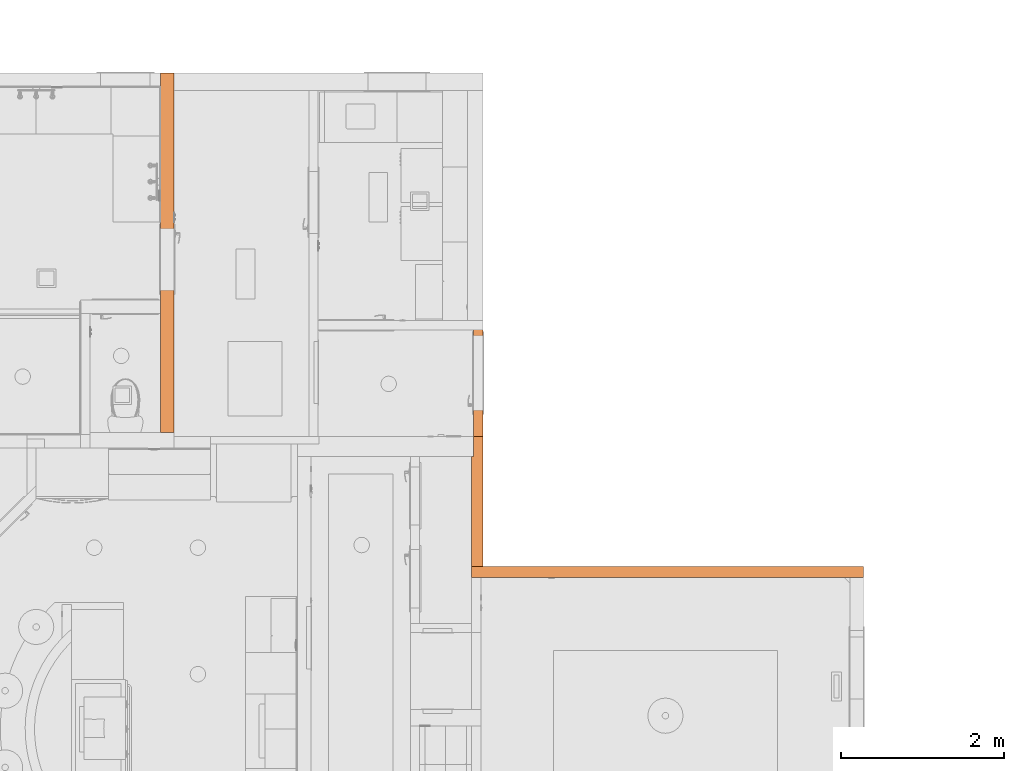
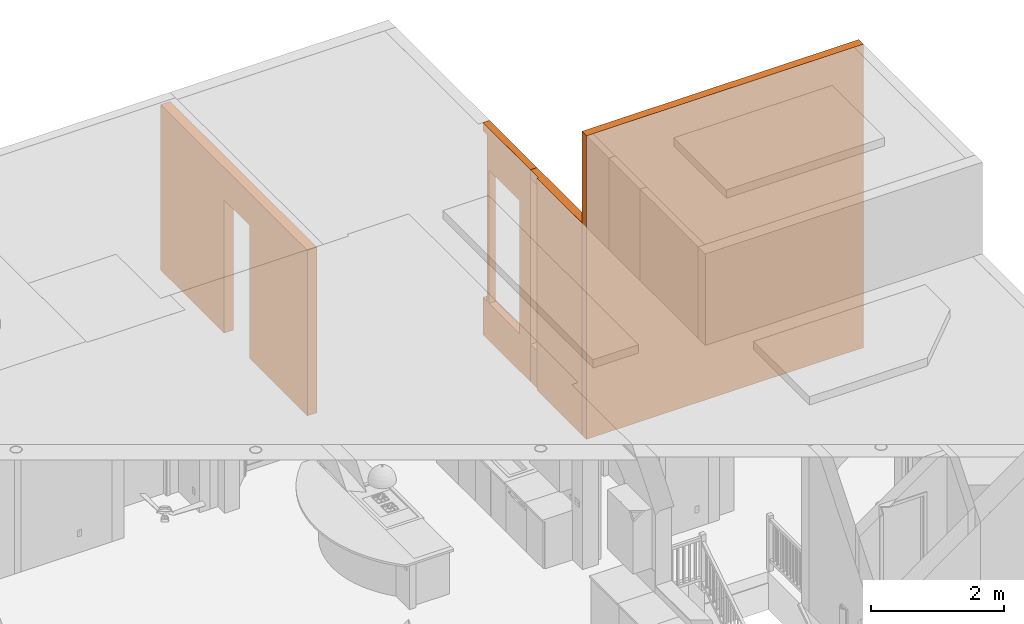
# One storey, part 95 of 103: 4 proxies.
"""IFC2X3 building model written with IfcOpenShell, lengths in inches."""

from ifc_helpers import new_model, entity, si_unit, converted_unit, derived_unit, money_unit, direction, frame, origin_with_axes, place, context, subcontext, project, spatial, faceted_brep, material, type_object, element, save


model = new_model("IFC2X3")

# Units and contexts
model_context = context("Model", 3, precision=0.00039370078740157, world=origin_with_axes(), true_north=direction((0.0, 1.0)))
plan_context = context("Plan", 3, precision=0.00039370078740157, world=origin_with_axes(), true_north=direction((0.0, 1.0)))
body_context = subcontext(model_context, "Body", "Model", "MODEL_VIEW")
ifc_project = project(units=[converted_unit("LENGTHUNIT", "INCH", entity("IfcPositiveLengthMeasure", 0.0254), si_unit("LENGTHUNIT", "METRE"), dimensions=[1, 0, 0, 0, 0, 0, 0]), converted_unit("AREAUNIT", "SQUARE_FOOT", entity("IfcPositiveLengthMeasure", 0.09290304), si_unit("AREAUNIT", "SQUARE_METRE"), dimensions=[2, 0, 0, 0, 0, 0, 0]), si_unit("PLANEANGLEUNIT", "RADIAN"), si_unit("SOLIDANGLEUNIT", "STERADIAN"), money_unit("USD"), converted_unit("TIMEUNIT", "Year", entity("IfcTimeMeasure", 31557600.0), si_unit("TIMEUNIT", "SECOND"), dimensions=[0, 0, 1, 0, 0, 0, 0]), si_unit("MASSUNIT", "GRAM", prefix="KILO"), si_unit("THERMODYNAMICTEMPERATUREUNIT", "DEGREE_CELSIUS"), si_unit("LUMINOUSINTENSITYUNIT", "LUMEN"), si_unit("ENERGYUNIT", "JOULE", prefix="MEGA"), derived_unit("SPECIFICHEATCAPACITYUNIT", [(si_unit("ENERGYUNIT", "JOULE"), 1), (si_unit("MASSUNIT", "GRAM", prefix="KILO"), -1), (si_unit("THERMODYNAMICTEMPERATUREUNIT", "KELVIN"), -1)])], contexts=[model_context, plan_context])

# Site, building, storey
site_placement = place(None, origin_with_axes())
site = spatial("IfcSite", under=ifc_project, at=site_placement, Name="Site", CompositionType="ELEMENT")
building_placement = place(site_placement, origin_with_axes())
building = spatial("IfcBuilding", under=site, at=building_placement, Name="Building", CompositionType="ELEMENT")
storey_placement = place(building_placement, frame((0.0, 0.0, 127.9999999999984), z_axis=(0.0, 0.0, 1.0), x_axis=(1.0, 0.0, 0.0)))
storey = spatial("IfcBuildingStorey", under=building, at=storey_placement, Name="Second Floor", CompositionType="ELEMENT", Elevation=128.0)

# Proxies
ifc_material = material(Name="Generic - Structural")
building_element_proxy_type_1 = type_object("IfcBuildingElementProxyType", Name="Generic - Structural 6 1/2\"", PredefinedType="NOTDEFINED")
proxy_1_placement = place(storey_placement, frame((95.49999999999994, 395.500909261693, 0.0), z_axis=(0.0, 0.0, 1.0), x_axis=(3.530252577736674e-08, 0.9999999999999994, 0.0)))
element("IfcBuildingElementProxy", 1, at=proxy_1_placement, inside=storey, type_object=building_element_proxy_type_1, material=ifc_material, Name="SW - 134", context=body_context, shape_type="Brep", body=[
    faceted_brep([(75.99909073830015, 2.68295985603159e-06, 0.0), (75.99909073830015, 2.68295985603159e-06, 95.9999999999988), (105.9990907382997, 3.742035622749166e-06, 95.9999999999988), (105.9990907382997, 3.742035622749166e-06, 0.0), (180.9990939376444, 6.389725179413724e-06, 0.0), (180.9990939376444, 6.389725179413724e-06, 119.4999999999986), (7.499999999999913, 2.64768941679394e-07, 119.4999999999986), (7.499999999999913, 2.64768941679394e-07, 0.0), (75.99909050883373, 6.500002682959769, 0.0), (75.99909050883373, 6.500002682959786, 95.9999999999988), (105.9990905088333, 6.500003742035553, 95.9999999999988), (105.9990905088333, 6.500003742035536, 0.0), (180.999093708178, 6.500006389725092, 0.0), (180.999093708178, 6.50000638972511, 119.4999999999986), (7.499999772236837, 6.500000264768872, 119.4999999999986), (7.499999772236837, 6.500000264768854, 0.0)], [[[0, 1, 2, 3, 4, 5, 6, 7]], [[1, 0, 8, 9]], [[2, 1, 9, 10]], [[3, 2, 10, 11]], [[3, 11, 12, 4]], [[5, 4, 12, 13]], [[5, 13, 14, 6]], [[6, 14, 15, 7]], [[8, 0, 7, 15]], [[9, 8, 15, 14, 13, 12, 11, 10]]]),
])
building_element_proxy_type_2 = type_object("IfcBuildingElementProxyType", Name="Generic - Structural 4 1/2\"", PredefinedType="NOTDEFINED")
proxy_2_placement = place(storey_placement, frame((239.9999999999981, 401.0009092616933, -26.99999999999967), z_axis=(0.0, 0.0, 1.0), x_axis=(0.0, 1.0, 0.0)))
element("IfcBuildingElementProxy", 2, at=proxy_2_placement, inside=storey, type_object=building_element_proxy_type_2, material=ifc_material, Name="SW - 130", context=body_context, shape_type="Brep", body=[
    faceted_brep([(0.0, 0.0, 152.9999999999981), (55.99909073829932, 0.0, 152.9999999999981), (55.99909073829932, 0.0, 146.9999999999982), (51.49909073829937, 0.0, 146.9999999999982), (51.49909073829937, 0.0, 26.99999999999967), (55.99909073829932, 0.0, 26.99999999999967), (55.99909073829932, 0.0, 0.0), (0.0, 0.0, 0.0), (0.0, 0.0, 26.99999999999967), (0.0, 0.0, 146.9999999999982), (12.7490907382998, 0.0, 26.99999999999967), (48.74909073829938, 0.0, 26.99999999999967), (48.74909073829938, 0.0, 122.9999999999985), (12.7490907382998, 0.0, 122.9999999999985), (0.0, -4.499999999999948, 152.9999999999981), (55.99909073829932, -4.499999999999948, 152.9999999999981), (55.99909073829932, -4.499999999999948, 146.9999999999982), (51.49909073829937, -4.499999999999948, 146.9999999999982), (51.49909073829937, -4.499999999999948, 26.99999999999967), (55.99909073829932, -4.499999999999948, 26.99999999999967), (55.99909073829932, -4.499999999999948, 0.0), (0.0, -4.499999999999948, 0.0), (0.0, -4.499999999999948, 26.99999999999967), (0.0, -4.499999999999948, 146.9999999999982), (12.7490907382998, -4.499999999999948, 26.99999999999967), (48.74909073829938, -4.499999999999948, 26.99999999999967), (48.74909073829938, -4.499999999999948, 122.9999999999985), (12.7490907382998, -4.499999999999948, 122.9999999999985)], [[[0, 1, 2, 3, 4, 5, 6, 7, 8, 9], [10, 11, 12, 13]], [[14, 15, 1, 0]], [[16, 2, 1, 15]], [[2, 16, 17, 3]], [[17, 18, 4, 3]], [[18, 19, 5, 4]], [[5, 19, 20, 6]], [[7, 6, 20, 21]], [[9, 8, 7, 21, 22, 23]], [[9, 23, 14, 0]], [[24, 25, 11, 10]], [[25, 26, 12, 11]], [[26, 27, 13, 12]], [[27, 24, 10, 13]], [[22, 21, 20, 19, 18, 17, 16, 15, 14, 23], [24, 27, 26, 25]]]),
])
building_element_proxy_type_3 = type_object("IfcBuildingElementProxyType", Name="Generic - Structural 5 1/2\"", PredefinedType="NOTDEFINED")
proxy_3_placement = place(storey_placement, frame((238.9999977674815, 401.0009092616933, -26.99999999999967), z_axis=(0.0, 0.0, 1.0), x_axis=(3.51572359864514e-08, -0.9999999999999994, 0.0)))
element("IfcBuildingElementProxy", 3, at=proxy_3_placement, inside=storey, type_object=building_element_proxy_type_3, material=ifc_material, Name="SW - 106", context=body_context, shape_type="Brep", body=[
    faceted_brep([(1.933648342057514e-07, 5.500002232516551, 146.9999999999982), (3.51573888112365e-08, 1.000004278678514, 146.9999999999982), (3.51573888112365e-08, 1.000004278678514, 152.9999999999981), (1.933647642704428e-07, 5.499999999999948, 152.9999999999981), (9.500000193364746, 5.500001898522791, 146.9999999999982), (9.499998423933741, 1.000003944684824, 146.9999999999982), (9.499998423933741, 1.000003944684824, 152.9999999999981), (9.499998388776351, -3.339936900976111e-07, 152.9999999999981), (62.5009092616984, -2.1973592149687e-06, 152.9999999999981), (62.50090945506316, 5.499997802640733, 152.9999999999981), (1.933647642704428e-07, 5.499999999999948, 0.0), (1.933648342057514e-07, 5.500002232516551, 26.99999999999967), (9.500000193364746, 5.500001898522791, 26.99999999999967), (62.50090945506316, 5.499997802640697, 0.0), (9.499999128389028, -3.339937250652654e-07, 26.99999999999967), (9.499998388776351, -3.339936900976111e-07, 146.9999999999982), (9.499999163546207, 0.9999997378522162, 26.99999999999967), (9.499999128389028, -3.339937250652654e-07, 0.0), (62.5009092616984, -2.1973592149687e-06, 0.0), (3.515717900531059e-08, 1.000000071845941, 0.0), (3.515717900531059e-08, 1.000000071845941, 26.99999999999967), (9.499999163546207, 0.9999997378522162, 0.0)], [[[0, 1, 2, 3]], [[4, 5, 1, 0]], [[5, 6, 2, 1]], [[2, 6, 7, 8, 9, 3]], [[10, 11, 12, 4, 0, 3, 9, 13]], [[14, 15, 5, 4, 12, 16]], [[15, 7, 6, 5]], [[8, 7, 15, 14, 17, 18]], [[8, 18, 13, 9]], [[10, 19, 20, 11]], [[11, 20, 16, 12]], [[17, 21, 19, 10, 13, 18]], [[17, 14, 16, 21]], [[21, 16, 20, 19]]]),
])
proxy_4_placement = place(storey_placement, frame((239.0000001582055, 332.9999999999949, -26.99999999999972), z_axis=(0.0, 0.0, 1.0), x_axis=(1.0, 0.0, 0.0)))
element("IfcBuildingElementProxy", 4, at=proxy_4_placement, inside=storey, type_object=building_element_proxy_type_3, material=ifc_material, Name="SW - 095", context=body_context, shape_type="Brep", body=[
    faceted_brep([(-2.390724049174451e-06, 5.499999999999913, 0.0), (0.0, 5.499999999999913, 152.9999999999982), (0.0, 5.499999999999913, 218.9999999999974), (188.9999998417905, 5.499999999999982, 218.9999999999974), (188.9999998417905, 5.499999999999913, 0.0), (-2.390724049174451e-06, 0.0, 0.0), (0.0, 0.0, 152.9999999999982), (0.0, 0.0, 218.9999999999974), (188.9999998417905, 0.0, 218.9999999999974), (188.9999998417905, 0.0, 0.0)], [[[0, 1, 2, 3, 4]], [[5, 6, 7, 2, 1, 0]], [[3, 2, 7, 8]], [[4, 3, 8, 9]], [[9, 5, 0, 4]], [[8, 7, 6, 5, 9]]]),
])

save(model, "model.ifc")
